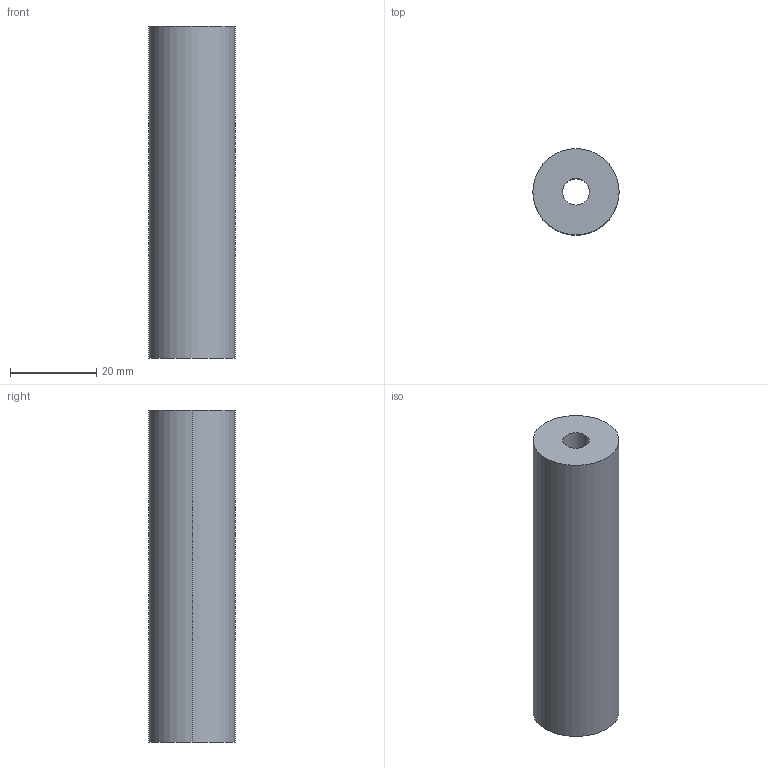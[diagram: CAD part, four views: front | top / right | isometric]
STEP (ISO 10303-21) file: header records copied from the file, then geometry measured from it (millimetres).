
FILE_DESCRIPTION((''),'2;1');
FILE_NAME('0000187335','2024-02-27T13:37:21',('Wyndorps'),(''),'CREO PARAMETRIC BY PTC INC, 2022484','CREO PARAMETRIC BY PTC INC, 2022484','');
FILE_SCHEMA(('CONFIG_CONTROL_DESIGN'));
Length unit declared in the file: millimetre
Products named in the file (1): 0000187335
Bounding box: 20 x 20 x 77 mm (x, y, z)
Volume: 21865.6 mm3; surface area: 6905.8 mm2
Topology: 1 solids, 1 shells, 6 faces, 12 edges, 8 vertices
Faces by surface type: cylinder 4, plane 2
Entity records: 206 total; most frequent: DIRECTION 32, CARTESIAN_POINT 26, ORIENTED_EDGE 24, AXIS2_PLACEMENT_3D 14, EDGE_CURVE 12, VERTEX_POINT 8, EDGE_LOOP 8, CIRCLE 8
